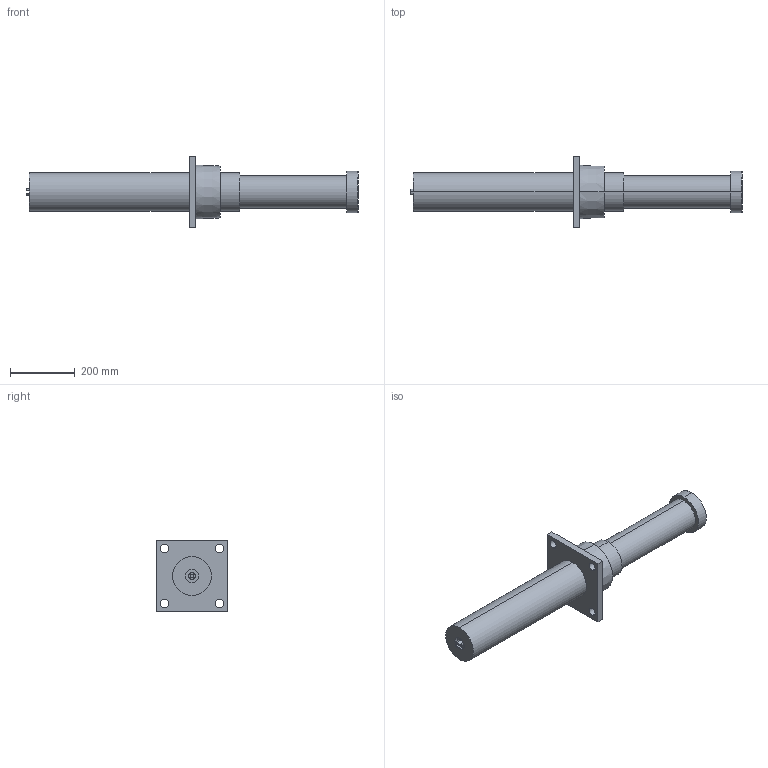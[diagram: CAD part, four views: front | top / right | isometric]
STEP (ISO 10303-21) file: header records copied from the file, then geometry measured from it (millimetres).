
FILE_DESCRIPTION (( 'STEP AP214' ), '1' );
FILE_NAME ('LDH120X300FF.STEP', '2019-01-21T04:59:08', ( 'user' ), ( 'Microsoft' ), 'SwSTEP 2.0', 'SolidWorks 2016', '' );
FILE_SCHEMA (( 'AUTOMOTIVE_DESIGN' ));
Length unit declared in the file: millimetre
Products named in the file (1): LDH120X300FF
Bounding box: 1023 x 220 x 220 mm (x, y, z)
Volume: 11762056.9 mm3; surface area: 492720.7 mm2
Topology: 1 solids, 5 shells, 63 faces, 136 edges, 90 vertices
Faces by surface type: cylinder 30, plane 29, cone 4
Entity records: 1790 total; most frequent: DIRECTION 338, CARTESIAN_POINT 290, ORIENTED_EDGE 272, AXIS2_PLACEMENT_3D 138, EDGE_CURVE 136, VERTEX_POINT 90, EDGE_LOOP 78, CIRCLE 74
